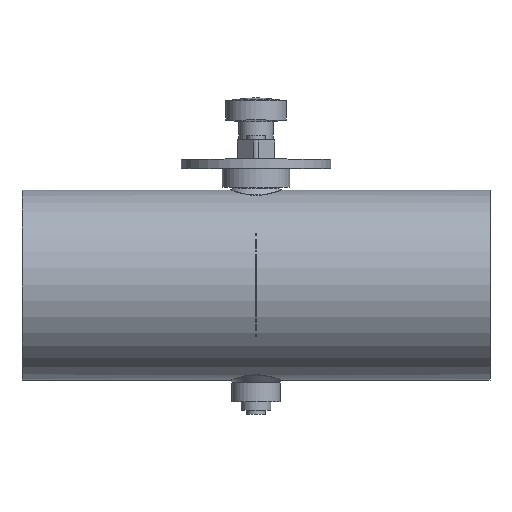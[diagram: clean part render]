
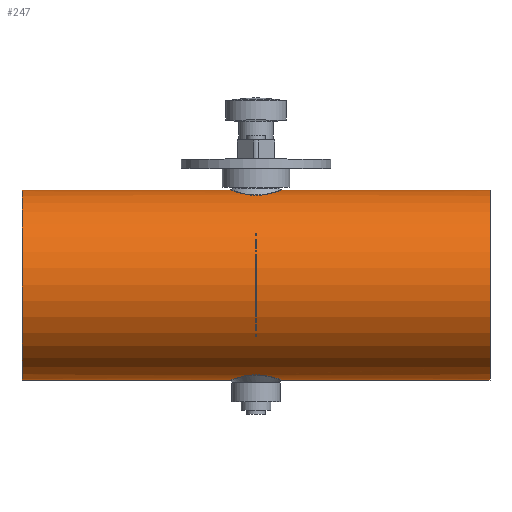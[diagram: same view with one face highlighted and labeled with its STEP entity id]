
A CAD part, top view. The second image highlights one B-rep face of the part: STEP entity #247.
In plain terms, the highlighted cylindrical face has radius 50.8 mm (diameter 101.6 mm), a full revolution.
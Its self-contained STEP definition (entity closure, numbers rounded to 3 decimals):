
#109=B_SPLINE_CURVE_WITH_KNOTS('',3,(#2003,#2004,#2005,#2006,#2007,#2008,
#2009,#2010,#2011,#2012,#2013,#2014,#2015,#2016,#2017,#2018,#2019,#2020,
#2021,#2022,#2023,#2024,#2025,#2026),.UNSPECIFIED.,.T.,.F.,(2,2,2,2,2,2,
2,2,2,2,2,2,2,2),(-0.063,0.,0.063,0.125,0.25,0.375,
0.438,0.5,0.625,0.75,0.875,0.938,1.,1.063),.UNSPECIFIED.);
#110=B_SPLINE_CURVE_WITH_KNOTS('',3,(#2028,#2029,#2030,#2031,#2032,#2033,
#2034,#2035,#2036,#2037,#2038,#2039,#2040,#2041,#2042,#2043,#2044,#2045,
#2046,#2047,#2048,#2049,#2050,#2051,#2052,#2053),.UNSPECIFIED.,.T.,.F.,(2,
2,2,2,2,2,2,2,2,2,2,2,2,2,2),(-0.062,0.,0.063,
0.125,0.25,0.375,0.438,0.5,
0.563,0.625,0.75,0.875,0.938,1.,1.063),.UNSPECIFIED.);
#161=CYLINDRICAL_SURFACE('',#1372,50.8);
#247=ADVANCED_FACE('',(#477,#478,#479,#480),#161,.T.);
#369=CIRCLE('',#1366,50.8);
#371=CIRCLE('',#1369,50.8);
#477=FACE_BOUND('',#643,.T.);
#478=FACE_BOUND('',#644,.T.);
#479=FACE_BOUND('',#645,.T.);
#480=FACE_BOUND('',#646,.T.);
#643=EDGE_LOOP('',(#887));
#644=EDGE_LOOP('',(#888));
#645=EDGE_LOOP('',(#889));
#646=EDGE_LOOP('',(#890));
#887=ORIENTED_EDGE('',*,*,#1155,.T.);
#888=ORIENTED_EDGE('',*,*,#1156,.T.);
#889=ORIENTED_EDGE('',*,*,#1151,.T.);
#890=ORIENTED_EDGE('',*,*,#1153,.T.);
#1029=VERTEX_POINT('',#1994);
#1031=VERTEX_POINT('',#1999);
#1033=VERTEX_POINT('',#2027);
#1034=VERTEX_POINT('',#2054);
#1151=EDGE_CURVE('',#1029,#1029,#369,.T.);
#1153=EDGE_CURVE('',#1031,#1031,#371,.T.);
#1155=EDGE_CURVE('',#1033,#1033,#109,.T.);
#1156=EDGE_CURVE('',#1034,#1034,#110,.T.);
#1366=AXIS2_PLACEMENT_3D('',#1993,#1658,#1659);
#1369=AXIS2_PLACEMENT_3D('',#1998,#1664,#1665);
#1372=AXIS2_PLACEMENT_3D('',#2055,#1670,#1671);
#1658=DIRECTION('',(-1.,0.,0.));
#1659=DIRECTION('',(0.,0.,1.));
#1664=DIRECTION('',(1.,0.,0.));
#1665=DIRECTION('',(0.,0.,-1.));
#1670=DIRECTION('',(1.,0.,0.));
#1671=DIRECTION('',(0.,0.,-1.));
#1993=CARTESIAN_POINT('',(125.,-8.3,125.));
#1994=CARTESIAN_POINT('',(125.,-8.3,175.8));
#1998=CARTESIAN_POINT('',(-125.,-8.3,125.));
#1999=CARTESIAN_POINT('',(-125.,-8.3,74.2));
#2003=CARTESIAN_POINT('',(-0.641,-56.186,108.034));
#2004=CARTESIAN_POINT('',(-4.642,-56.512,108.986));
#2005=CARTESIAN_POINT('',(-6.468,-56.847,109.98));
#2006=CARTESIAN_POINT('',(-9.553,-57.571,112.56));
#2007=CARTESIAN_POINT('',(-10.827,-57.959,114.145));
#2008=CARTESIAN_POINT('',(-13.777,-58.917,119.411));
#2009=CARTESIAN_POINT('',(-14.546,-59.241,123.656));
#2010=CARTESIAN_POINT('',(-13.401,-58.819,131.681));
#2011=CARTESIAN_POINT('',(-11.513,-58.078,135.52));
#2012=CARTESIAN_POINT('',(-7.107,-56.98,139.59));
#2013=CARTESIAN_POINT('',(-5.35,-56.624,140.679));
#2014=CARTESIAN_POINT('',(-1.462,-56.217,141.883));
#2015=CARTESIAN_POINT('',(0.658,-56.187,141.964));
#2016=CARTESIAN_POINT('',(6.633,-56.676,140.537));
#2017=CARTESIAN_POINT('',(9.833,-57.636,137.623));
#2018=CARTESIAN_POINT('',(13.773,-58.916,130.604));
#2019=CARTESIAN_POINT('',(14.545,-59.241,126.368));
#2020=CARTESIAN_POINT('',(13.406,-58.821,118.329));
#2021=CARTESIAN_POINT('',(11.52,-58.081,114.494));
#2022=CARTESIAN_POINT('',(7.126,-56.984,110.424));
#2023=CARTESIAN_POINT('',(5.371,-56.627,109.329));
#2024=CARTESIAN_POINT('',(1.456,-56.216,108.114));
#2025=CARTESIAN_POINT('',(-0.641,-56.186,108.034));
#2026=CARTESIAN_POINT('',(-4.642,-56.512,108.986));
#2027=CARTESIAN_POINT('',(-2.641,-56.349,108.51));
#2028=CARTESIAN_POINT('',(-4.643,39.912,108.986));
#2029=CARTESIAN_POINT('',(-0.639,39.586,108.033));
#2030=CARTESIAN_POINT('',(1.467,39.617,108.117));
#2031=CARTESIAN_POINT('',(5.359,40.025,109.325));
#2032=CARTESIAN_POINT('',(7.129,40.385,110.426));
#2033=CARTESIAN_POINT('',(11.529,41.484,114.504));
#2034=CARTESIAN_POINT('',(13.415,42.224,118.36));
#2035=CARTESIAN_POINT('',(14.542,42.64,126.377));
#2036=CARTESIAN_POINT('',(13.758,42.311,130.637));
#2037=CARTESIAN_POINT('',(10.814,41.355,135.871));
#2038=CARTESIAN_POINT('',(9.527,40.964,137.467));
#2039=CARTESIAN_POINT('',(6.453,40.245,140.028));
#2040=CARTESIAN_POINT('',(4.6,39.908,141.028));
#2041=CARTESIAN_POINT('',(0.649,39.587,141.961));
#2042=CARTESIAN_POINT('',(-1.48,39.617,141.881));
#2043=CARTESIAN_POINT('',(-5.371,40.027,140.669));
#2044=CARTESIAN_POINT('',(-7.124,40.384,139.578));
#2045=CARTESIAN_POINT('',(-11.526,41.483,135.5));
#2046=CARTESIAN_POINT('',(-13.409,42.222,131.678));
#2047=CARTESIAN_POINT('',(-14.548,42.642,123.589));
#2048=CARTESIAN_POINT('',(-13.777,42.317,119.4));
#2049=CARTESIAN_POINT('',(-10.809,41.353,114.119));
#2050=CARTESIAN_POINT('',(-9.548,40.97,112.554));
#2051=CARTESIAN_POINT('',(-6.46,40.246,109.975));
#2052=CARTESIAN_POINT('',(-4.643,39.912,108.986));
#2053=CARTESIAN_POINT('',(-0.639,39.586,108.033));
#2054=CARTESIAN_POINT('',(-2.641,39.749,108.51));
#2055=CARTESIAN_POINT('',(-125.,-8.3,125.));
